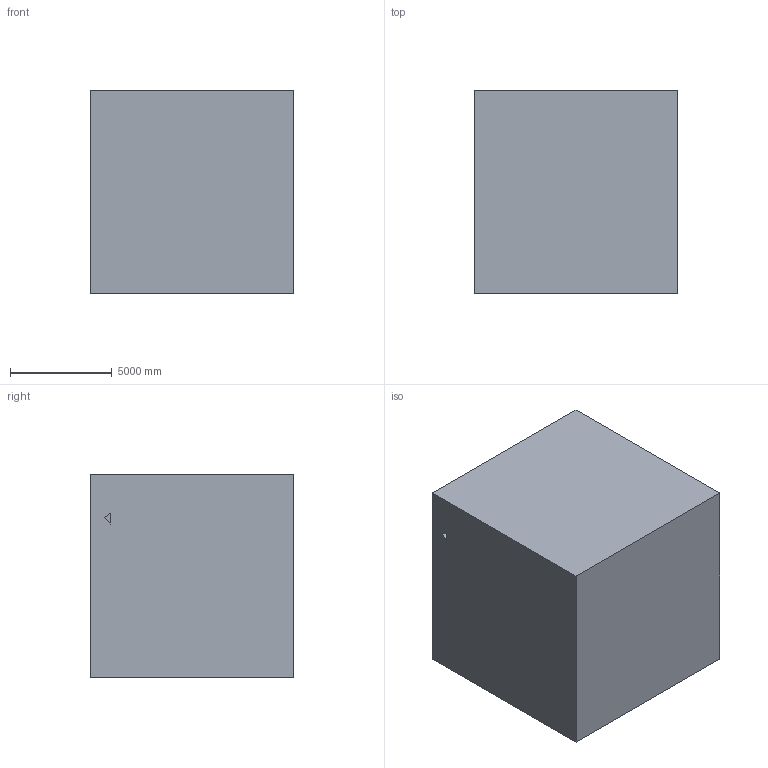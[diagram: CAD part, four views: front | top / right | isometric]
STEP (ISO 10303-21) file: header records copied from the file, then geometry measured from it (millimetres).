
FILE_DESCRIPTION (( 'STEP AP203' ), '1' );
FILE_NAME ('0.STEP', '2022-09-01T11:33:34', ( 'user' ), ( '' ), 'SwSTEP 2.0', 'SolidWorks 2021', '' );
FILE_SCHEMA (( 'CONFIG_CONTROL_DESIGN' ));
Length unit declared in the file: centimetre
Products named in the file (1): 0
Bounding box: 10000 x 10000 x 10000 mm (x, y, z)
Volume: 997168937002.5 mm3; surface area: 617216526.7 mm2
Topology: 1 solids, 1 shells, 14 faces, 33 edges, 22 vertices
Faces by surface type: plane 13, cylinder 1
Entity records: 476 total; most frequent: CARTESIAN_POINT 70, ORIENTED_EDGE 66, DIRECTION 65, EDGE_CURVE 33, VECTOR 31, LINE 31, VERTEX_POINT 22, AXIS2_PLACEMENT_3D 17
